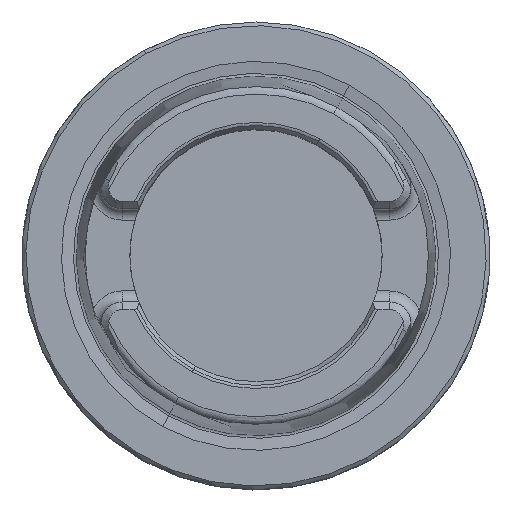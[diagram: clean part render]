
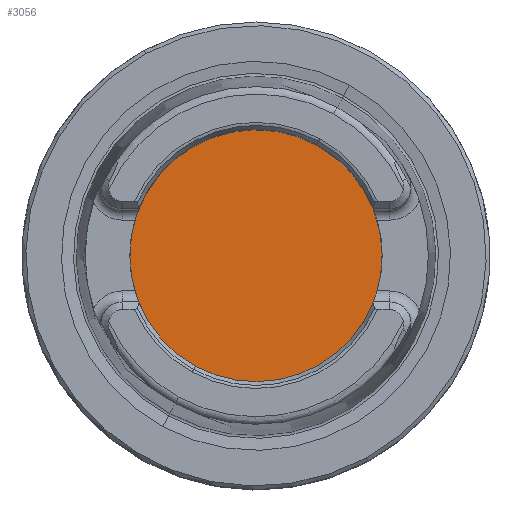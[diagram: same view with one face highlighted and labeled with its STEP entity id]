
A CAD part, top view. The second image highlights one B-rep face of the part: STEP entity #3056.
In plain terms, the highlighted planar face has unit normal (0, 0, 1).
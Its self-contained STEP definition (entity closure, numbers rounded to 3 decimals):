
#339=AXIS2_PLACEMENT_3D('Circle Axis2P3D',#337,#338,$) ;
#854=AXIS2_PLACEMENT_3D('Circle Axis2P3D',#852,#853,$) ;
#3050=AXIS2_PLACEMENT_3D('Plane Axis2P3D',#3047,#3048,#3049) ;
#334=CARTESIAN_POINT('Vertex',(8.15,14.919,-10.)) ;
#337=CARTESIAN_POINT('Axis2P3D Location',(0.,0.,-10.)) ;
#341=CARTESIAN_POINT('Vertex',(-8.15,-14.919,-10.)) ;
#852=CARTESIAN_POINT('Axis2P3D Location',(0.,0.,-10.)) ;
#3047=CARTESIAN_POINT('Axis2P3D Location',(0.,-15.75,-10.)) ;
#338=DIRECTION('Axis2P3D Direction',(0.,0.,-1.)) ;
#853=DIRECTION('Axis2P3D Direction',(0.,0.,-1.)) ;
#3048=DIRECTION('Axis2P3D Direction',(0.,0.,-1.)) ;
#3049=DIRECTION('Axis2P3D XDirection',(-1.,0.,0.)) ;
#3053=ORIENTED_EDGE('',*,*,#856,.T.) ;
#3054=ORIENTED_EDGE('',*,*,#343,.T.) ;
#3056=ADVANCED_FACE('NO_CUT',(#3055),#3051,.F.) ;
#340=CIRCLE('generated circle',#339,17.) ;
#855=CIRCLE('generated circle',#854,17.) ;
#343=EDGE_CURVE('',#342,#335,#340,.F.) ;
#856=EDGE_CURVE('',#335,#342,#855,.F.) ;
#3052=EDGE_LOOP('',(#3053,#3054)) ;
#3055=FACE_OUTER_BOUND('',#3052,.T.) ;
#3051=PLANE('',#3050) ;
#335=VERTEX_POINT('',#334) ;
#342=VERTEX_POINT('',#341) ;
